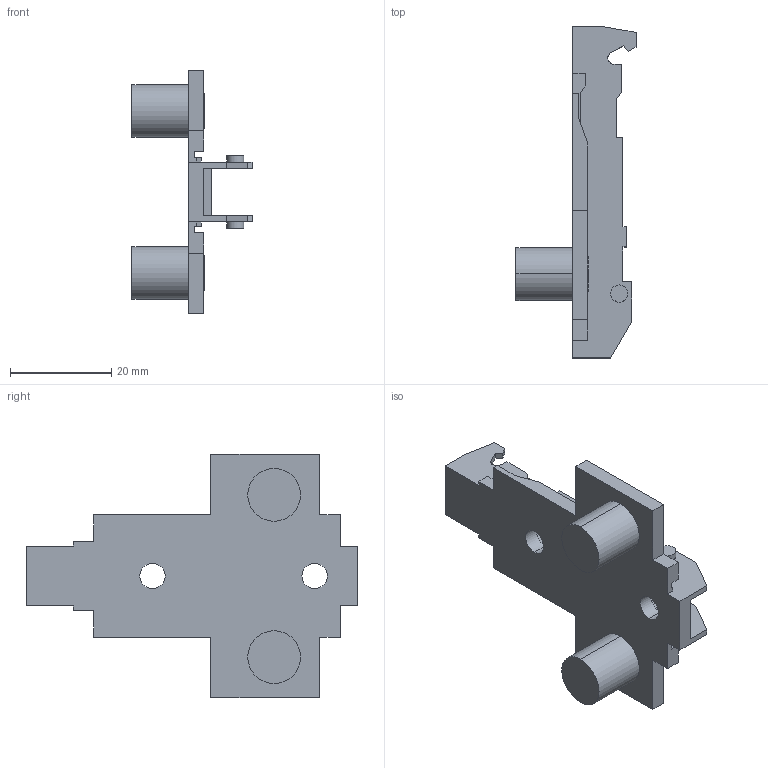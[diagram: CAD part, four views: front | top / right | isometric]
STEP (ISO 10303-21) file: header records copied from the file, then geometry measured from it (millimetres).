
FILE_DESCRIPTION (( 'STEP AP214' ), '1' );
FILE_NAME ('1D_Kreuzmontageplatte 28_32_10mm_Dübel_2.step', '2018-10-02T12:38:44', ( '' ), ( '' ), 'SwSTEP 2.0', 'SolidWorks 2017', '' );
FILE_SCHEMA (( 'AUTOMOTIVE_DESIGN' ));
Length unit declared in the file: millimetre
Products named in the file (1): 1D_Kreuzmontageplatte 28_32_10mm_Dübel_2
Bounding box: 23.7 x 65.5 x 48 mm (x, y, z)
Volume: 8356.4 mm3; surface area: 7398.8 mm2
Topology: 1 solids, 1 shells, 112 faces, 308 edges, 204 vertices
Faces by surface type: plane 86, cylinder 22, cone 4
Entity records: 3570 total; most frequent: CARTESIAN_POINT 625, ORIENTED_EDGE 616, DIRECTION 582, EDGE_CURVE 308, VECTOR 260, LINE 260, VERTEX_POINT 204, AXIS2_PLACEMENT_3D 161
